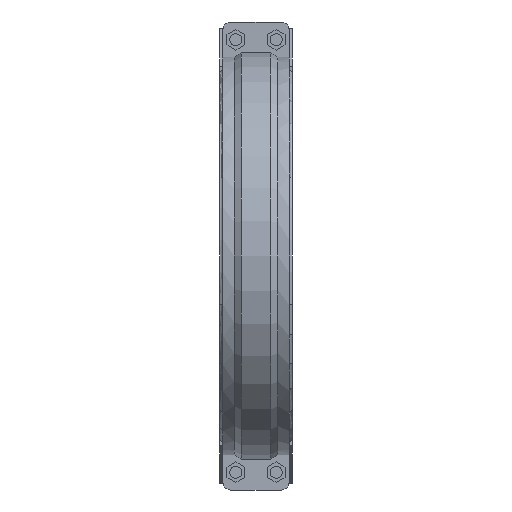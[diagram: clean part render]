
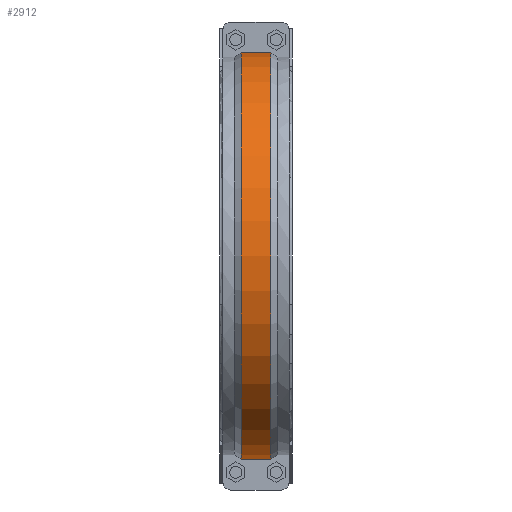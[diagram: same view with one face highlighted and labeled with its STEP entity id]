
A CAD part, front view. The second image highlights one B-rep face of the part: STEP entity #2912.
In plain terms, the highlighted cylindrical face has radius 319.654 mm (diameter 639.308 mm), a partial arc.
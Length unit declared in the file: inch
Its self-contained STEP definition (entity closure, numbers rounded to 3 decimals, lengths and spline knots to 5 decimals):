
#333=FACE_OUTER_BOUND('',#503,.T.);
#503=EDGE_LOOP('',(#2474,#2475,#2476,#2477));
#619=LINE('',#4387,#882);
#776=LINE('',#4917,#1039);
#882=VECTOR('',#3487,0.3937);
#1039=VECTOR('',#3916,0.3937);
#1101=CIRCLE('',#3077,12.58481);
#1135=CIRCLE('',#3174,12.58481);
#1249=VERTEX_POINT('',#4382);
#1250=VERTEX_POINT('',#4386);
#1295=VERTEX_POINT('',#4601);
#1394=VERTEX_POINT('',#4913);
#1550=EDGE_CURVE('',#1250,#1249,#619,.T.);
#1620=EDGE_CURVE('',#1295,#1249,#1101,.T.);
#1772=EDGE_CURVE('',#1295,#1394,#776,.T.);
#1779=EDGE_CURVE('',#1394,#1250,#1135,.T.);
#2474=ORIENTED_EDGE('',*,*,#1550,.T.);
#2475=ORIENTED_EDGE('',*,*,#1620,.F.);
#2476=ORIENTED_EDGE('',*,*,#1772,.T.);
#2477=ORIENTED_EDGE('',*,*,#1779,.T.);
#2616=CYLINDRICAL_SURFACE('',#3173,12.58481);
#2912=ADVANCED_FACE('',(#333),#2616,.T.);
#3077=AXIS2_PLACEMENT_3D('',#4605,#3619,#3620);
#3173=AXIS2_PLACEMENT_3D('',#4931,#3935,#3936);
#3174=AXIS2_PLACEMENT_3D('',#4932,#3937,#3938);
#3487=DIRECTION('',(1.,0.,0.));
#3619=DIRECTION('center_axis',(1.,0.,0.));
#3620=DIRECTION('ref_axis',(0.,0.,-1.));
#3916=DIRECTION('',(-1.,0.,0.));
#3935=DIRECTION('center_axis',(1.,0.,0.));
#3936=DIRECTION('ref_axis',(0.,-1.,0.));
#3937=DIRECTION('center_axis',(1.,0.,0.));
#3938=DIRECTION('ref_axis',(0.,0.,-1.));
#4382=CARTESIAN_POINT('',(0.9,-0.375,-12.57922));
#4386=CARTESIAN_POINT('',(-0.9,-0.375,-12.57922));
#4387=CARTESIAN_POINT('',(0.45,-0.375,-12.57922));
#4601=CARTESIAN_POINT('',(0.9,-0.375,12.57922));
#4605=CARTESIAN_POINT('Origin',(0.9,0.,0.));
#4913=CARTESIAN_POINT('',(-0.9,-0.375,12.57922));
#4917=CARTESIAN_POINT('',(0.45,-0.375,12.57922));
#4931=CARTESIAN_POINT('Origin',(0.45,0.,0.));
#4932=CARTESIAN_POINT('Origin',(-0.9,0.,0.));
